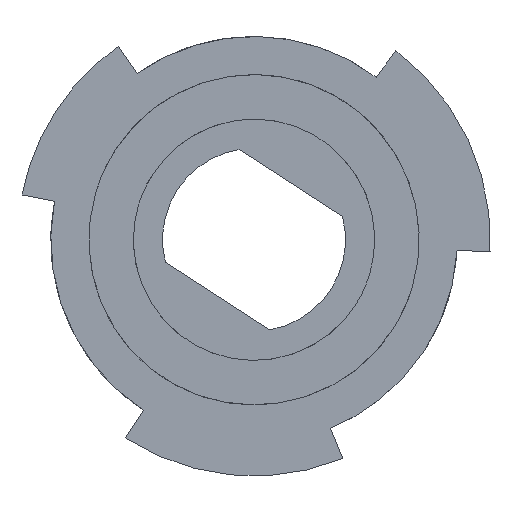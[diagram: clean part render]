
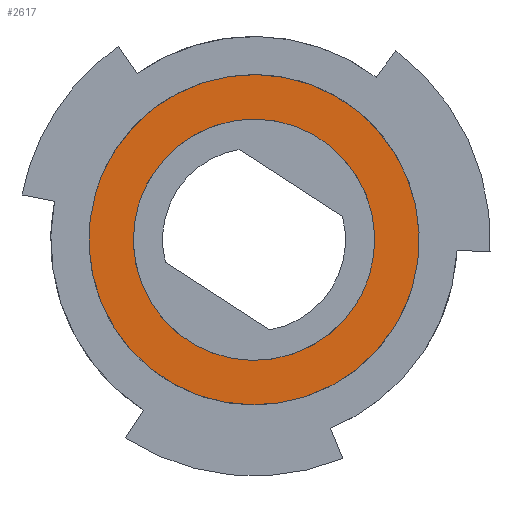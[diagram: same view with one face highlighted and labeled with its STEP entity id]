
A CAD part, front view. The second image highlights one B-rep face of the part: STEP entity #2617.
In plain terms, the highlighted planar face has unit normal (0, -1, 0).
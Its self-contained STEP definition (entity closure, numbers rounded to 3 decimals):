
#2461=AXIS2_PLACEMENT_3D('Circle Axis2P3D',#2459,#2460,$) ;
#2468=AXIS2_PLACEMENT_3D('Circle Axis2P3D',#2466,#2467,$) ;
#2494=AXIS2_PLACEMENT_3D('Circle Axis2P3D',#2492,#2493,$) ;
#2501=AXIS2_PLACEMENT_3D('Circle Axis2P3D',#2499,#2500,$) ;
#2527=AXIS2_PLACEMENT_3D('Circle Axis2P3D',#2525,#2526,$) ;
#2536=AXIS2_PLACEMENT_3D('Circle Axis2P3D',#2534,#2535,$) ;
#2574=AXIS2_PLACEMENT_3D('Circle Axis2P3D',#2572,#2573,$) ;
#2581=AXIS2_PLACEMENT_3D('Circle Axis2P3D',#2579,#2580,$) ;
#2603=AXIS2_PLACEMENT_3D('Plane Axis2P3D',#2600,#2601,#2602) ;
#2449=CARTESIAN_POINT('Vertex',(-184.682,-1342.001,345.62)) ;
#2456=CARTESIAN_POINT('Vertex',(-173.771,-1342.001,338.552)) ;
#2459=CARTESIAN_POINT('Axis2P3D Location',(-179.226,-1342.001,342.086)) ;
#2463=CARTESIAN_POINT('Vertex',(-185.453,-1342.001,343.951)) ;
#2466=CARTESIAN_POINT('Axis2P3D Location',(-179.226,-1342.001,342.086)) ;
#2492=CARTESIAN_POINT('Axis2P3D Location',(-179.226,-1342.001,342.086)) ;
#2496=CARTESIAN_POINT('Vertex',(-172.999,-1342.001,340.221)) ;
#2499=CARTESIAN_POINT('Axis2P3D Location',(-179.226,-1342.001,342.086)) ;
#2525=CARTESIAN_POINT('Axis2P3D Location',(-179.226,-1342.001,342.086)) ;
#2529=CARTESIAN_POINT('Vertex',(-183.213,-1342.001,344.668)) ;
#2531=CARTESIAN_POINT('Vertex',(-183.776,-1342.001,343.449)) ;
#2534=CARTESIAN_POINT('Axis2P3D Location',(-179.226,-1342.001,342.086)) ;
#2538=CARTESIAN_POINT('Vertex',(-175.239,-1342.001,339.503)) ;
#2572=CARTESIAN_POINT('Axis2P3D Location',(-179.226,-1342.001,342.086)) ;
#2576=CARTESIAN_POINT('Vertex',(-174.676,-1342.001,340.723)) ;
#2579=CARTESIAN_POINT('Axis2P3D Location',(-179.226,-1342.001,342.086)) ;
#2600=CARTESIAN_POINT('Axis2P3D Location',(-172.909,-1342.001,347.773)) ;
#2460=DIRECTION('Axis2P3D Direction',(0.,1.,0.)) ;
#2467=DIRECTION('Axis2P3D Direction',(0.,1.,0.)) ;
#2493=DIRECTION('Axis2P3D Direction',(0.,1.,0.)) ;
#2500=DIRECTION('Axis2P3D Direction',(0.,1.,0.)) ;
#2526=DIRECTION('Axis2P3D Direction',(0.,1.,0.)) ;
#2535=DIRECTION('Axis2P3D Direction',(0.,1.,0.)) ;
#2573=DIRECTION('Axis2P3D Direction',(0.,1.,0.)) ;
#2580=DIRECTION('Axis2P3D Direction',(0.,1.,0.)) ;
#2601=DIRECTION('Axis2P3D Direction',(0.,1.,0.)) ;
#2602=DIRECTION('Axis2P3D XDirection',(-0.743,0.,-0.669)) ;
#2606=ORIENTED_EDGE('',*,*,#2465,.F.) ;
#2607=ORIENTED_EDGE('',*,*,#2503,.F.) ;
#2608=ORIENTED_EDGE('',*,*,#2498,.F.) ;
#2609=ORIENTED_EDGE('',*,*,#2470,.F.) ;
#2612=ORIENTED_EDGE('',*,*,#2533,.F.) ;
#2613=ORIENTED_EDGE('',*,*,#2583,.F.) ;
#2614=ORIENTED_EDGE('',*,*,#2578,.F.) ;
#2615=ORIENTED_EDGE('',*,*,#2540,.F.) ;
#2616=FACE_BOUND('',#2611,.T.) ;
#2617=ADVANCED_FACE('MANIFOLD_SOLID_BREP #413',(#2610,#2616),#2604,.F.) ;
#2462=CIRCLE('generated circle',#2461,6.5) ;
#2469=CIRCLE('generated circle',#2468,6.5) ;
#2495=CIRCLE('generated circle',#2494,6.5) ;
#2502=CIRCLE('generated circle',#2501,6.5) ;
#2528=CIRCLE('generated circle',#2527,4.75) ;
#2537=CIRCLE('generated circle',#2536,4.75) ;
#2575=CIRCLE('generated circle',#2574,4.75) ;
#2582=CIRCLE('generated circle',#2581,4.75) ;
#2465=EDGE_CURVE('',#2457,#2464,#2462,.T.) ;
#2470=EDGE_CURVE('',#2464,#2450,#2469,.T.) ;
#2498=EDGE_CURVE('',#2450,#2497,#2495,.T.) ;
#2503=EDGE_CURVE('',#2497,#2457,#2502,.T.) ;
#2533=EDGE_CURVE('',#2530,#2532,#2528,.F.) ;
#2540=EDGE_CURVE('',#2532,#2539,#2537,.F.) ;
#2578=EDGE_CURVE('',#2539,#2577,#2575,.F.) ;
#2583=EDGE_CURVE('',#2577,#2530,#2582,.F.) ;
#2605=EDGE_LOOP('',(#2606,#2607,#2608,#2609)) ;
#2611=EDGE_LOOP('',(#2612,#2613,#2614,#2615)) ;
#2610=FACE_OUTER_BOUND('',#2605,.T.) ;
#2604=PLANE('',#2603) ;
#2450=VERTEX_POINT('',#2449) ;
#2457=VERTEX_POINT('',#2456) ;
#2464=VERTEX_POINT('',#2463) ;
#2497=VERTEX_POINT('',#2496) ;
#2530=VERTEX_POINT('',#2529) ;
#2532=VERTEX_POINT('',#2531) ;
#2539=VERTEX_POINT('',#2538) ;
#2577=VERTEX_POINT('',#2576) ;
